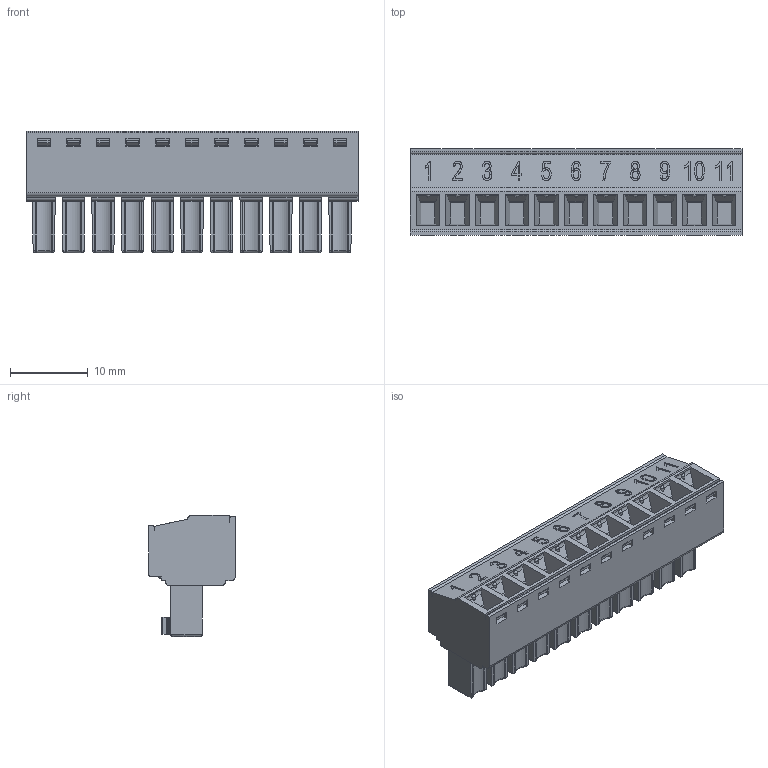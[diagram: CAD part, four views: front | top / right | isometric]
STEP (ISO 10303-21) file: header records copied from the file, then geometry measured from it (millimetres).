
FILE_DESCRIPTION((''),'2;1');
FILE_NAME('DINKLE_EC381V-3703','2022-11-25T',('Yingchen.Liu'),(''),'CREO PARAMETRIC BY PTC INC, 2015480','CREO PARAMETRIC BY PTC INC, 2015480','');
FILE_SCHEMA(('CONFIG_CONTROL_DESIGN'));
Products named in the file (1): DINKLE_EC381V-3703
Bounding box: 42.7 x 11.1 x 15.6 mm (x, y, z)
Volume: 4275.7 mm3; surface area: 3963.2 mm2
Topology: 1 solids, 56 shells, 1950 faces, 5012 edges, 3251 vertices
Faces by surface type: plane 1036, cylinder 514, extrusion 191, cone 121, sphere 44, torus 44
Entity records: 71595 total; most frequent: CARTESIAN_POINT 24948, ORIENTED_EDGE 10002, DIRECTION 8926, EDGE_CURVE 5001, VECTOR 3316, VERTEX_POINT 3251, LINE 3125, AXIS2_PLACEMENT_3D 2805
